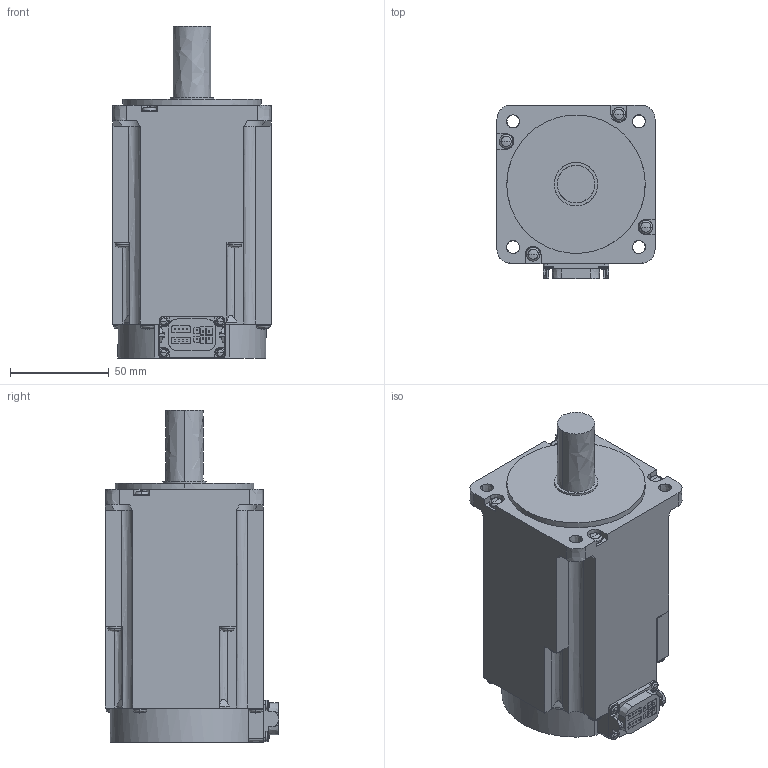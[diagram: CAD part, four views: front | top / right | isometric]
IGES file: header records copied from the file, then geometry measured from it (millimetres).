
Start section:  PTC IGES file: hk-kt7m3wb_-_asm.igs
Global section: file name: hk-kt7m3wb_-_asm.igs; native system: Creo Parametric by PTC Inc.; preprocessor: 2016380; author: XE90682; organization: Unknown; date: 20190116.111638; units: millimetre
Bounding box: 80 x 87.65 x 168 mm (x, y, z)
Volume: 725689.8 mm3; surface area: 56005.6 mm2
Topology: 1 solids, 1 shells, 401 faces, 1043 edges, 655 vertices
Faces by surface type: bspline 401
